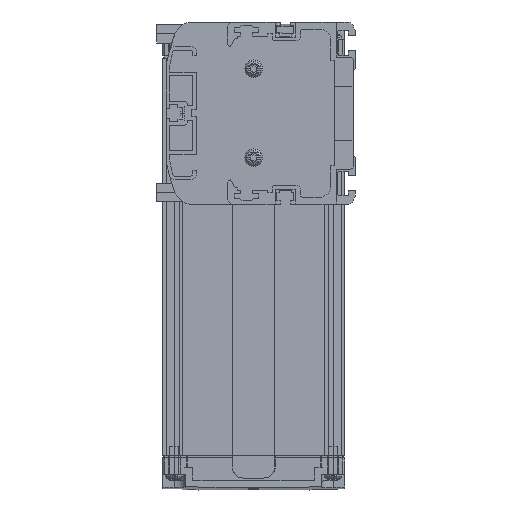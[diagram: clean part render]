
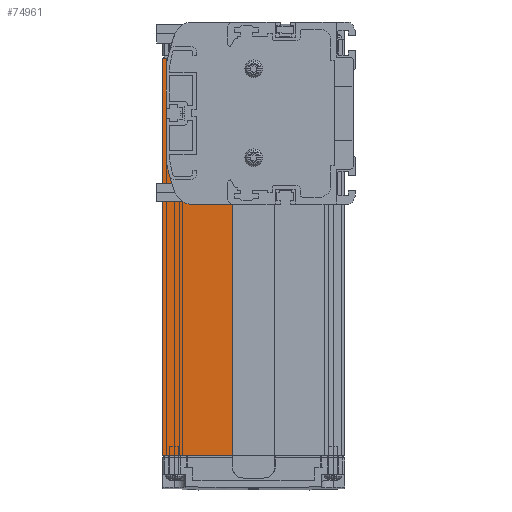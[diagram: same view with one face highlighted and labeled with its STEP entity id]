
A CAD part, left-side view. The second image highlights one B-rep face of the part: STEP entity #74961.
In plain terms, the highlighted planar face has unit normal (-1, 0, 0).
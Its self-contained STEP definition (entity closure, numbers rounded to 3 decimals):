
#72902=DIRECTION('',(0.,0.,1.));
#72903=VECTOR('',#72902,51.);
#72904=CARTESIAN_POINT('',(3.,70.5,-27.5));
#72905=LINE('',#72904,#72903);
#73551=DIRECTION('',(0.,0.,1.));
#73552=VECTOR('',#73551,170.);
#73553=CARTESIAN_POINT('',(3.,82.5,-146.5));
#73554=LINE('',#73553,#73552);
#73569=DIRECTION('',(0.,-1.,0.));
#73570=VECTOR('',#73569,29.9);
#73571=CARTESIAN_POINT('',(3.,82.5,-146.5));
#73572=LINE('',#73571,#73570);
#73573=DIRECTION('',(0.,1.,0.));
#73574=VECTOR('',#73573,12.);
#73575=CARTESIAN_POINT('',(3.,70.5,23.5));
#73576=LINE('',#73575,#73574);
#73577=DIRECTION('',(0.,1.,0.));
#73578=VECTOR('',#73577,17.9);
#73579=CARTESIAN_POINT('',(3.,52.6,-27.5));
#73580=LINE('',#73579,#73578);
#73687=DIRECTION('',(0.,0.,1.));
#73688=VECTOR('',#73687,119.);
#73689=CARTESIAN_POINT('',(3.,52.6,-146.5));
#73690=LINE('',#73689,#73688);
#73774=CARTESIAN_POINT('',(3.,70.5,23.5));
#73776=VERTEX_POINT('',#73774);
#73868=CARTESIAN_POINT('',(3.,82.5,23.5));
#73869=VERTEX_POINT('',#73868);
#73942=CARTESIAN_POINT('',(3.,82.5,-146.5));
#73943=VERTEX_POINT('',#73942);
#73944=CARTESIAN_POINT('',(3.,52.6,-146.5));
#73945=VERTEX_POINT('',#73944);
#74006=CARTESIAN_POINT('',(3.,70.5,-27.5));
#74007=VERTEX_POINT('',#74006);
#74008=CARTESIAN_POINT('',(3.,52.6,-27.5));
#74009=VERTEX_POINT('',#74008);
#74946=CARTESIAN_POINT('',(3.,67.55,-61.5));
#74947=DIRECTION('',(1.,0.,0.));
#74948=DIRECTION('',(0.,1.,0.));
#74949=AXIS2_PLACEMENT_3D('',#74946,#74947,#74948);
#74950=PLANE('',#74949);
#74951=ORIENTED_EDGE('',*,*,#74192,.F.);
#74953=ORIENTED_EDGE('',*,*,#74952,.F.);
#74955=ORIENTED_EDGE('',*,*,#74954,.F.);
#74956=ORIENTED_EDGE('',*,*,#74520,.F.);
#74957=ORIENTED_EDGE('',*,*,#74934,.T.);
#74958=ORIENTED_EDGE('',*,*,#74061,.F.);
#74959=EDGE_LOOP('',(#74951,#74953,#74955,#74956,#74957,#74958));
#74960=FACE_OUTER_BOUND('',#74959,.F.);
#74961=ADVANCED_FACE('',(#74960),#74950,.F.);
#74061=EDGE_CURVE('',#73776,#73869,#73576,.T.);
#74192=EDGE_CURVE('',#74007,#73776,#72905,.T.);
#74520=EDGE_CURVE('',#73943,#73945,#73572,.T.);
#74934=EDGE_CURVE('',#73943,#73869,#73554,.T.);
#74952=EDGE_CURVE('',#74009,#74007,#73580,.T.);
#74954=EDGE_CURVE('',#73945,#74009,#73690,.T.);
